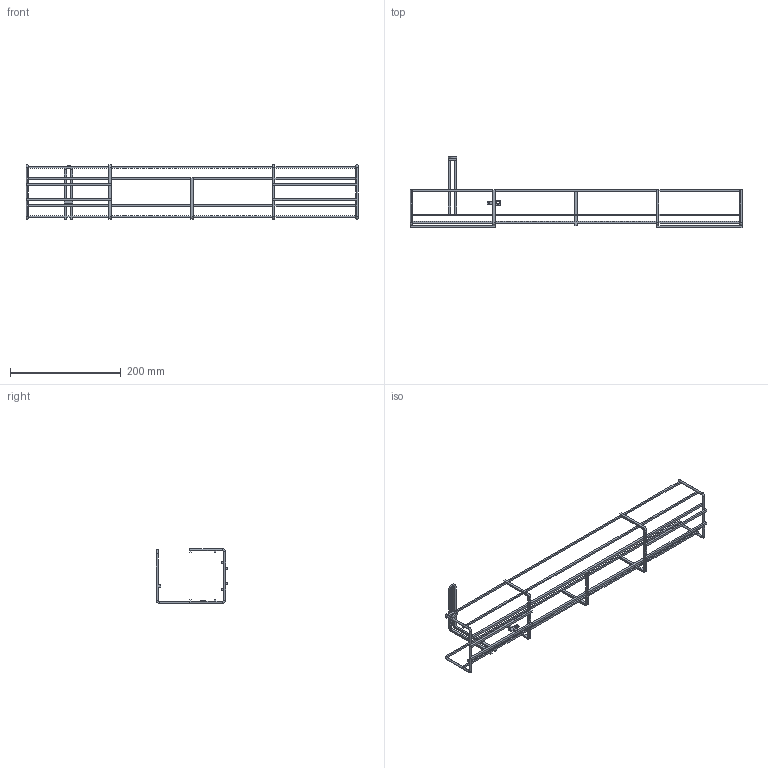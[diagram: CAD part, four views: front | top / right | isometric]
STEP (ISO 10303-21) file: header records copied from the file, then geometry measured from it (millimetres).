
FILE_DESCRIPTION(/* description */ (''),/* implementation_level */ '2;1');
FILE_NAME(/* name */ 'C:/Users/jon.gardner/Desktop/QikTray-750.step',/* time_stamp */ '2019-10-08T12:58:16+01:00',/* author */ (''),/* organization */ (''),/* preprocessor_version */ 'ST-DEVELOPER v18',/* originating_system */ 'Autodesk Translation Framework v8.6.0.1094',/* authorisation */ '');
FILE_SCHEMA (('AUTOMOTIVE_DESIGN { 1 0 10303 214 3 1 1 }'));
Length unit declared in the file: millimetre
Products named in the file (1): PF0537 - 600 - Basket no bracket - Issue F
Bounding box: 600 x 129.5 x 99 mm (x, y, z)
Volume: 72051.9 mm3; surface area: 79189.7 mm2
Topology: 3 solids, 3 shells, 226 faces, 622 edges, 378 vertices
Faces by surface type: plane 192, cylinder 30, torus 4
Full cylindrical faces by diameter (mm): 1.7 x1, 5 x1
Entity records: 7108 total; most frequent: ORIENTED_EDGE 1252, CARTESIAN_POINT 1239, DIRECTION 1156, EDGE_CURVE 626, LINE 550, VECTOR 550, VERTEX_POINT 386, AXIS2_PLACEMENT_3D 303
